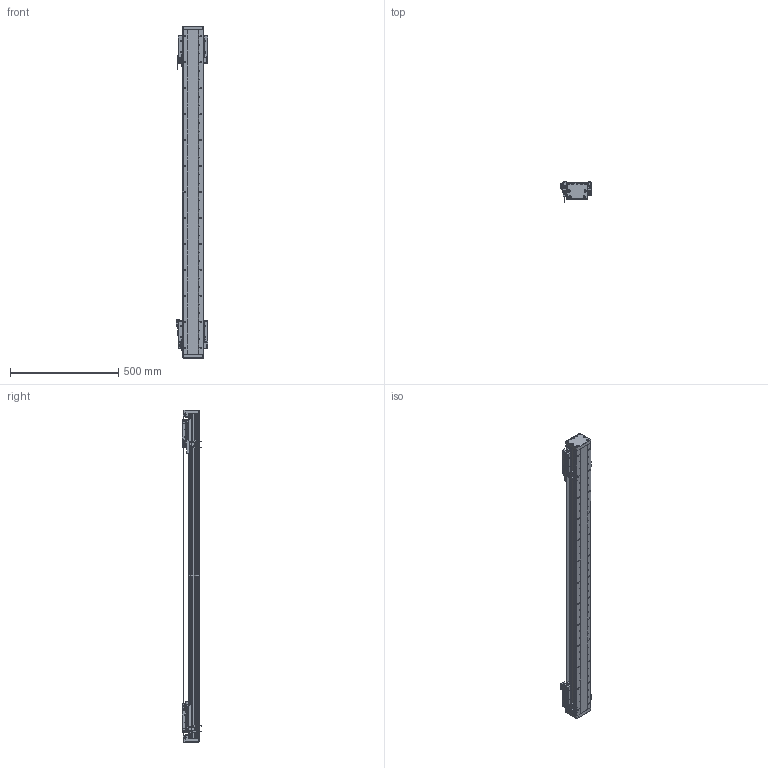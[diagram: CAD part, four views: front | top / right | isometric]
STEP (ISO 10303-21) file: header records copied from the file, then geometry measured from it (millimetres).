
FILE_DESCRIPTION (( 'STEP AP203' ), '1' );
FILE_NAME ('DA-B95-2-B15-T1160-C010-0.2 直线电机.STEP', '2023-05-06T06:29:34', ( '微软用户' ), ( '微软中国' ), 'SwSTEP 2.0', 'SolidWorks 2019', '' );
FILE_SCHEMA (( 'CONFIG_CONTROL_DESIGN' ));
Length unit declared in the file: millimetre
Products named in the file (34): PM-T45 光电开关^DA-A95-B15-T-C010-0.2-N 直线电机; 复件 DA95-HK-GT-00 滑块钢轨^66245-BU95-V-00 一体化滑动台板; DA-B95-2-B15-T1160-C010-0.2 眻盄萇儂; 66245-BU95-V 幗紩賑怢; 复件 DKW-HXJ-JY-00 缓冲橡胶^DA-A95-B15-T-C010-0.2-N 直线电机; 复件 六角薄螺母 M3^DA-A95-B15-T-C010-0.2-N 直线电机_GB_FASTENER_NUT_STNAB M3-C; 复件 66245-BU95-HT-V-01 滑动台板^66245-BU95-V-00 一体化滑动台板; 复件 DA95-MFP-01 密封片^66245-BU95-V 滚珠滑台; 葩璃 BKMA01-W060-TRL^DA-A95-B15-T-C010-0.2-N 眻盄萇儂; 葩璃 BKM015-W060-C1-TP-DA-0.2^DA-A95-B15-T-C010-0.2-N 眻盄萇儂; 复件 DA95-B15 钢带盖板^DA-A95-B15-T-C010-0.2-N 直线电机; DA95-HXJ-00 缓冲橡胶^DA-A95-B15-T-C010-0.2-N 直线电机; DA-A95-GYP-00 光电感应片^DA-A95-B15-T-C010-0.2-N 直线电机; B15 XD-U-02L ｴﾅﾕ､ｳﾟ^DA-A95-B15-T-C010-0.2-N ﾖｱﾏﾟｵ扈銈XD-U-02L; 66245-BU95-V-00 珨极趙賑雄怢啣; 葩璃 DA95-B15-DP--B-00 菜えB^66245-BU95-V 幗紩賑怢; 复件 DA95-B15-YB-A-00 压板A^66245-BU95-V 滚珠滑台; 复件 复件 18252-0001-002-00 钢带垫块^DA-A95-B15-T-C010-0.2-N 直线电机; 复件 DA95-DK-00 挡块^66245-BU95-V 滚珠滑台; IU-BU95-L-00 菁釱_L1500; 复件 DKW-GYP-ZJ-00 中间光电感应片^DA-A95-B15-T-C010-0.2-N 直线电机; 葩璃 DA95-GT-T-00^IU-BU95-L 菁釱絳寢_DA95; 复件 DA95-DB-00  挡板^66245-BU95-V 滚珠滑台; 复件 复件 18252-0001-004-00 钢带端盖^DA-A95-B15-T-C010-0.2-N 直线电机; 葩璃 PM-Y45^DA-A95-B15-T-C010-0.2-N 眻盄萇儂; IU-BU95-L 菁釱絳寢; 复件 纯铜油杯 6x6mm^66245-BU95-V 滚珠滑台; 复件 复件 18252-0001-003-00 钢带拉块^DA-A95-B15-T-C010-0.2-N 直线电机; 复件 DA95-B15-YB-B-00 压板B^66245-BU95-V 滚珠滑台; 复件 DKW-KGZ-ZJ-00 中间光电开关支架^DA-A95-B15-T-C010-0.2-N 直线电机; LMDK-2-R001-V5-L02-C1-F00，0.2M 读数头^DA-A95-B15-T-C010-0.2-N 直线电机_DMA-010-0.2; 葩璃 DA95-B15-DP-A-00 菜えA^66245-BU95-V 幗紩賑怢
Assembly tree (80 placements, depth 4):
  DA-B95-2-B15-T1160-C010-0.2 眻盄萇儂
    IU-BU95-L 菁釱絳寢
      IU-BU95-L-00 菁釱_L1500
      葩璃 DA95-GT-T-00^IU-BU95-L 菁釱絳寢_DA95  x2
    66245-BU95-V 幗紩賑怢
      66245-BU95-V-00 珨极趙賑雄怢啣
        复件 66245-BU95-HT-V-01 滑动台板^66245-BU95-V-00 一体化滑动台板
        复件 DA95-HK-GT-00 滑块钢轨^66245-BU95-V-00 一体化滑动台板  x2
      葩璃 DA95-B15-DP-A-00 菜えA^66245-BU95-V 幗紩賑怢
      复件 DA95-B15-YB-A-00 压板A^66245-BU95-V 滚珠滑台
      复件 DA95-B15-YB-B-00 压板B^66245-BU95-V 滚珠滑台
      复件 DA95-DB-00  挡板^66245-BU95-V 滚珠滑台  x4
      复件 DA95-DK-00 挡块^66245-BU95-V 滚珠滑台  x2
      复件 DA95-MFP-01 密封片^66245-BU95-V 滚珠滑台  x4
      复件 纯铜油杯 6x6mm^66245-BU95-V 滚珠滑台  x2
      葩璃 DA95-B15-DP--B-00 菜えB^66245-BU95-V 幗紩賑怢
    66245-BU95-V 幗紩賑怢
      66245-BU95-V-00 珨极趙賑雄怢啣
        复件 66245-BU95-HT-V-01 滑动台板^66245-BU95-V-00 一体化滑动台板
        复件 DA95-HK-GT-00 滑块钢轨^66245-BU95-V-00 一体化滑动台板  x2
      葩璃 DA95-B15-DP-A-00 菜えA^66245-BU95-V 幗紩賑怢
      复件 DA95-B15-YB-A-00 压板A^66245-BU95-V 滚珠滑台
      复件 DA95-B15-YB-B-00 压板B^66245-BU95-V 滚珠滑台
      复件 DA95-DB-00  挡板^66245-BU95-V 滚珠滑台  x4
      复件 DA95-DK-00 挡块^66245-BU95-V 滚珠滑台  x2
      复件 DA95-MFP-01 密封片^66245-BU95-V 滚珠滑台  x4
      复件 纯铜油杯 6x6mm^66245-BU95-V 滚珠滑台  x2
      葩璃 DA95-B15-DP--B-00 菜えB^66245-BU95-V 幗紩賑怢
    DA-A95-GYP-00 光电感应片^DA-A95-B15-T-C010-0.2-N 直线电机  x2
    LMDK-2-R001-V5-L02-C1-F00，0.2M 读数头^DA-A95-B15-T-C010-0.2-N 直线电机_DMA-010-0.2  x2
    复件 DKW-KGZ-ZJ-00 中间光电开关支架^DA-A95-B15-T-C010-0.2-N 直线电机
    葩璃 PM-Y45^DA-A95-B15-T-C010-0.2-N 眻盄萇儂
    复件 DKW-GYP-ZJ-00 中间光电感应片^DA-A95-B15-T-C010-0.2-N 直线电机
    葩璃 BKM015-W060-C1-TP-DA-0.2^DA-A95-B15-T-C010-0.2-N 眻盄萇儂  x2
    复件 DKW-HXJ-JY-00 缓冲橡胶^DA-A95-B15-T-C010-0.2-N 直线电机  x2
    PM-T45 光电开关^DA-A95-B15-T-C010-0.2-N 直线电机  x4
    B15 XD-U-02L ｴﾅﾕ､ｳﾟ^DA-A95-B15-T-C010-0.2-N ﾖｱﾏﾟｵ扈銈XD-U-02L
    复件 复件 18252-0001-003-00 钢带拉块^DA-A95-B15-T-C010-0.2-N 直线电机  x2
    复件 复件 18252-0001-002-00 钢带垫块^DA-A95-B15-T-C010-0.2-N 直线电机  x2
    复件 复件 18252-0001-004-00 钢带端盖^DA-A95-B15-T-C010-0.2-N 直线电机  x2
    复件 DA95-B15 钢带盖板^DA-A95-B15-T-C010-0.2-N 直线电机
    DA95-HXJ-00 缓冲橡胶^DA-A95-B15-T-C010-0.2-N 直线电机  x4
    葩璃 BKMA01-W060-TRL^DA-A95-B15-T-C010-0.2-N 眻盄萇儂
    复件 六角薄螺母 M3^DA-A95-B15-T-C010-0.2-N 直线电机_GB_FASTENER_NUT_STNAB M3-C  x6
Bounding box: 145.4 x 90.2 x 1536 mm (x, y, z)
Volume: 5494665.4 mm3; surface area: 1776420.4 mm2
Topology: 75 solids, 93 shells, 3768 faces, 10228 edges, 6431 vertices
Faces by surface type: cylinder 1821, plane 1415, cone 464, torus 64, sphere 4
Entity records: 80292 total; most frequent: CARTESIAN_POINT 19174, DIRECTION 11840, ORIENTED_EDGE 11814, EDGE_CURVE 5907, AXIS2_PLACEMENT_3D 4457, VERTEX_POINT 3833, VECTOR 2926, LINE 2926
